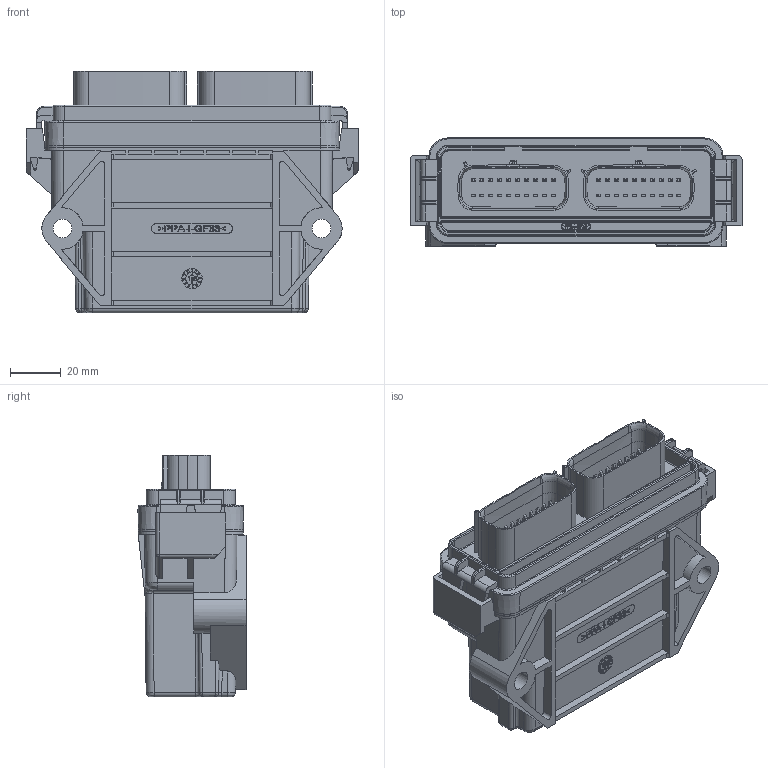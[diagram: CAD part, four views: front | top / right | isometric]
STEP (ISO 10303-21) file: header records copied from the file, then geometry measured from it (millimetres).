
FILE_DESCRIPTION (( 'STEP AP214' ), '1' );
FILE_NAME ('AX031855.STEP', '2026-01-28T17:16:59', ( '' ), ( '' ), 'SwSTEP 2.0', 'SolidWorks 2023', '' );
FILE_SCHEMA (( 'AUTOMOTIVE_DESIGN' ));
Length unit declared in the file: millimetre
Products named in the file (6): LBM-AX031855-01-R1; CINCH 5810140011; AX031855; LBM-SERIAL-01-R3; MG-24031-01 for STEP; CINCH 5810130090
Assembly tree (5 placements, depth 3):
  AX031855
    MG-24031-01 for STEP
      CINCH 5810140011
      CINCH 5810130090
      LBM-SERIAL-01-R3
    LBM-AX031855-01-R1
Bounding box: 130.25 x 42.39 x 94.94 mm (x, y, z)
Volume: 69783.3 mm3; surface area: 103196.7 mm2
Topology: 3 solids, 5 shells, 4773 faces, 13189 edges, 8370 vertices
Faces by surface type: plane 3637, cylinder 669, bspline 287, torus 104, cone 54, sphere 22
Entity records: 178250 total; most frequent: CARTESIAN_POINT 41958, ORIENTED_EDGE 26362, DIRECTION 22731, EDGE_CURVE 13187, VECTOR 10849, LINE 10849, VERTEX_POINT 8370, AXIS2_PLACEMENT_3D 5941
